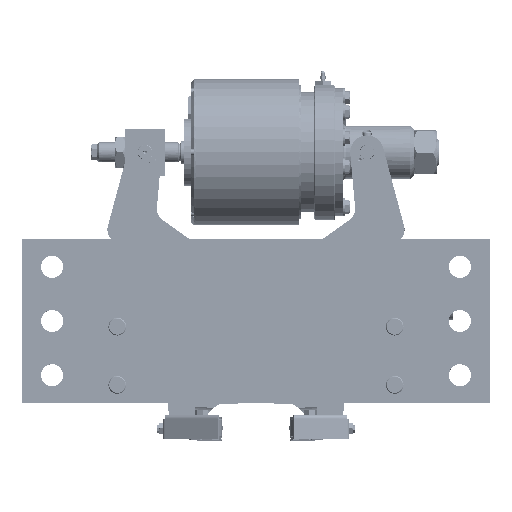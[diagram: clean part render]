
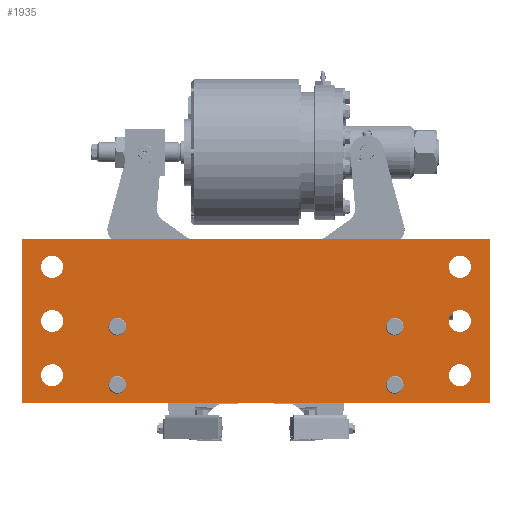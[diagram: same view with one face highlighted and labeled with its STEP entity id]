
A CAD part, top view. The second image highlights one B-rep face of the part: STEP entity #1935.
In plain terms, the highlighted planar face has unit normal (0, 0, 1).
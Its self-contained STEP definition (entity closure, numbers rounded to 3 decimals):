
#578=DIRECTION('',(-1.,0.,0.));
#579=VECTOR('',#578,700.);
#580=CARTESIAN_POINT('',(350.,0.,60.));
#581=LINE('',#580,#579);
#690=DIRECTION('',(1.,0.,0.));
#691=VECTOR('',#690,700.);
#692=CARTESIAN_POINT('',(-350.,245.,60.));
#693=LINE('',#692,#691);
#768=DIRECTION('',(0.,-1.,0.));
#769=VECTOR('',#768,245.);
#770=CARTESIAN_POINT('',(350.,245.,60.));
#771=LINE('',#770,#769);
#782=CARTESIAN_POINT('',(207.5,27.,60.));
#783=DIRECTION('',(0.,0.,-1.));
#784=DIRECTION('',(-1.,0.,0.));
#785=AXIS2_PLACEMENT_3D('',#782,#783,#784);
#790=CARTESIAN_POINT('',(207.5,27.,60.));
#791=DIRECTION('',(0.,0.,-1.));
#792=DIRECTION('',(1.,0.,0.));
#793=AXIS2_PLACEMENT_3D('',#790,#791,#792);
#798=CARTESIAN_POINT('',(207.5,114.,60.));
#799=DIRECTION('',(0.,0.,-1.));
#800=DIRECTION('',(-1.,0.,0.));
#801=AXIS2_PLACEMENT_3D('',#798,#799,#800);
#806=CARTESIAN_POINT('',(207.5,114.,60.));
#807=DIRECTION('',(0.,0.,-1.));
#808=DIRECTION('',(1.,0.,0.));
#809=AXIS2_PLACEMENT_3D('',#806,#807,#808);
#814=CARTESIAN_POINT('',(-207.5,27.,60.));
#815=DIRECTION('',(0.,0.,-1.));
#816=DIRECTION('',(-1.,0.,0.));
#817=AXIS2_PLACEMENT_3D('',#814,#815,#816);
#822=CARTESIAN_POINT('',(-207.5,27.,60.));
#823=DIRECTION('',(0.,0.,-1.));
#824=DIRECTION('',(1.,0.,0.));
#825=AXIS2_PLACEMENT_3D('',#822,#823,#824);
#830=CARTESIAN_POINT('',(-207.5,114.,60.));
#831=DIRECTION('',(0.,0.,-1.));
#832=DIRECTION('',(-1.,0.,0.));
#833=AXIS2_PLACEMENT_3D('',#830,#831,#832);
#838=CARTESIAN_POINT('',(-207.5,114.,60.));
#839=DIRECTION('',(0.,0.,-1.));
#840=DIRECTION('',(1.,0.,0.));
#841=AXIS2_PLACEMENT_3D('',#838,#839,#840);
#846=CARTESIAN_POINT('',(305.,41.5,60.));
#847=DIRECTION('',(0.,0.,-1.));
#848=DIRECTION('',(1.,0.,0.));
#849=AXIS2_PLACEMENT_3D('',#846,#847,#848);
#854=CARTESIAN_POINT('',(305.,41.5,60.));
#855=DIRECTION('',(0.,0.,-1.));
#856=DIRECTION('',(-1.,0.,0.));
#857=AXIS2_PLACEMENT_3D('',#854,#855,#856);
#862=CARTESIAN_POINT('',(-305.,41.5,60.));
#863=DIRECTION('',(0.,0.,-1.));
#864=DIRECTION('',(1.,0.,0.));
#865=AXIS2_PLACEMENT_3D('',#862,#863,#864);
#870=CARTESIAN_POINT('',(-305.,41.5,60.));
#871=DIRECTION('',(0.,0.,-1.));
#872=DIRECTION('',(-1.,0.,0.));
#873=AXIS2_PLACEMENT_3D('',#870,#871,#872);
#878=CARTESIAN_POINT('',(-305.,122.5,60.));
#879=DIRECTION('',(0.,0.,-1.));
#880=DIRECTION('',(1.,0.,0.));
#881=AXIS2_PLACEMENT_3D('',#878,#879,#880);
#886=CARTESIAN_POINT('',(-305.,122.5,60.));
#887=DIRECTION('',(0.,0.,-1.));
#888=DIRECTION('',(-1.,0.,0.));
#889=AXIS2_PLACEMENT_3D('',#886,#887,#888);
#894=CARTESIAN_POINT('',(305.,122.5,60.));
#895=DIRECTION('',(0.,0.,-1.));
#896=DIRECTION('',(1.,0.,0.));
#897=AXIS2_PLACEMENT_3D('',#894,#895,#896);
#902=CARTESIAN_POINT('',(305.,122.5,60.));
#903=DIRECTION('',(0.,0.,-1.));
#904=DIRECTION('',(-1.,0.,0.));
#905=AXIS2_PLACEMENT_3D('',#902,#903,#904);
#910=CARTESIAN_POINT('',(-305.,203.5,60.));
#911=DIRECTION('',(0.,0.,-1.));
#912=DIRECTION('',(1.,0.,0.));
#913=AXIS2_PLACEMENT_3D('',#910,#911,#912);
#918=CARTESIAN_POINT('',(-305.,203.5,60.));
#919=DIRECTION('',(0.,0.,-1.));
#920=DIRECTION('',(-1.,0.,0.));
#921=AXIS2_PLACEMENT_3D('',#918,#919,#920);
#926=CARTESIAN_POINT('',(305.,203.5,60.));
#927=DIRECTION('',(0.,0.,-1.));
#928=DIRECTION('',(1.,0.,0.));
#929=AXIS2_PLACEMENT_3D('',#926,#927,#928);
#934=CARTESIAN_POINT('',(305.,203.5,60.));
#935=DIRECTION('',(0.,0.,-1.));
#936=DIRECTION('',(-1.,0.,0.));
#937=AXIS2_PLACEMENT_3D('',#934,#935,#936);
#942=DIRECTION('',(0.,1.,0.));
#943=VECTOR('',#942,245.);
#944=CARTESIAN_POINT('',(-350.,0.,60.));
#945=LINE('',#944,#943);
#1364=CARTESIAN_POINT('',(194.25,114.,60.));
#1365=CARTESIAN_POINT('',(220.75,114.,60.));
#1366=VERTEX_POINT('',#1364);
#1367=VERTEX_POINT('',#1365);
#1376=CARTESIAN_POINT('',(-220.75,27.,60.));
#1377=CARTESIAN_POINT('',(-194.25,27.,60.));
#1378=VERTEX_POINT('',#1376);
#1379=VERTEX_POINT('',#1377);
#1380=CARTESIAN_POINT('',(-350.,245.,60.));
#1381=CARTESIAN_POINT('',(350.,245.,60.));
#1382=VERTEX_POINT('',#1380);
#1383=VERTEX_POINT('',#1381);
#1404=CARTESIAN_POINT('',(-288.5,41.5,60.));
#1405=CARTESIAN_POINT('',(-321.5,41.5,60.));
#1406=VERTEX_POINT('',#1404);
#1407=VERTEX_POINT('',#1405);
#1424=CARTESIAN_POINT('',(288.5,203.5,60.));
#1425=CARTESIAN_POINT('',(321.5,203.5,60.));
#1426=VERTEX_POINT('',#1424);
#1427=VERTEX_POINT('',#1425);
#1428=CARTESIAN_POINT('',(321.5,41.5,60.));
#1429=VERTEX_POINT('',#1428);
#1430=CARTESIAN_POINT('',(-220.75,114.,60.));
#1431=CARTESIAN_POINT('',(-194.25,114.,60.));
#1432=VERTEX_POINT('',#1430);
#1433=VERTEX_POINT('',#1431);
#1438=CARTESIAN_POINT('',(288.5,122.5,60.));
#1439=CARTESIAN_POINT('',(321.5,122.5,60.));
#1440=VERTEX_POINT('',#1438);
#1441=VERTEX_POINT('',#1439);
#1452=CARTESIAN_POINT('',(288.5,41.5,60.));
#1453=VERTEX_POINT('',#1452);
#1455=CARTESIAN_POINT('',(220.75,27.,60.));
#1457=VERTEX_POINT('',#1455);
#1460=CARTESIAN_POINT('',(-321.5,203.5,60.));
#1461=CARTESIAN_POINT('',(-288.5,203.5,60.));
#1462=VERTEX_POINT('',#1460);
#1463=VERTEX_POINT('',#1461);
#1466=CARTESIAN_POINT('',(-288.5,122.5,60.));
#1467=CARTESIAN_POINT('',(-321.5,122.5,60.));
#1468=VERTEX_POINT('',#1466);
#1469=VERTEX_POINT('',#1467);
#1520=CARTESIAN_POINT('',(350.,0.,60.));
#1521=VERTEX_POINT('',#1520);
#1526=CARTESIAN_POINT('',(194.25,27.,60.));
#1527=VERTEX_POINT('',#1526);
#1540=CARTESIAN_POINT('',(-350.,0.,60.));
#1541=VERTEX_POINT('',#1540);
#1863=CARTESIAN_POINT('',(0.,0.,60.));
#1864=DIRECTION('',(0.,0.,1.));
#1865=DIRECTION('',(1.,0.,0.));
#1866=AXIS2_PLACEMENT_3D('',#1863,#1864,#1865);
#1867=PLANE('',#1866);
#1868=ORIENTED_EDGE('',*,*,#1857,.T.);
#1869=ORIENTED_EDGE('',*,*,#1755,.T.);
#1871=ORIENTED_EDGE('',*,*,#1870,.T.);
#1872=ORIENTED_EDGE('',*,*,#1814,.T.);
#1873=EDGE_LOOP('',(#1868,#1869,#1871,#1872));
#1874=FACE_OUTER_BOUND('',#1873,.F.);
#1876=ORIENTED_EDGE('',*,*,#1875,.F.);
#1878=ORIENTED_EDGE('',*,*,#1877,.F.);
#1879=EDGE_LOOP('',(#1876,#1878));
#1880=FACE_BOUND('',#1879,.F.);
#1882=ORIENTED_EDGE('',*,*,#1881,.F.);
#1884=ORIENTED_EDGE('',*,*,#1883,.F.);
#1885=EDGE_LOOP('',(#1882,#1884));
#1886=FACE_BOUND('',#1885,.F.);
#1888=ORIENTED_EDGE('',*,*,#1887,.F.);
#1890=ORIENTED_EDGE('',*,*,#1889,.F.);
#1891=EDGE_LOOP('',(#1888,#1890));
#1892=FACE_BOUND('',#1891,.F.);
#1894=ORIENTED_EDGE('',*,*,#1893,.F.);
#1896=ORIENTED_EDGE('',*,*,#1895,.F.);
#1897=EDGE_LOOP('',(#1894,#1896));
#1898=FACE_BOUND('',#1897,.F.);
#1900=ORIENTED_EDGE('',*,*,#1899,.F.);
#1902=ORIENTED_EDGE('',*,*,#1901,.F.);
#1903=EDGE_LOOP('',(#1900,#1902));
#1904=FACE_BOUND('',#1903,.F.);
#1906=ORIENTED_EDGE('',*,*,#1905,.F.);
#1908=ORIENTED_EDGE('',*,*,#1907,.F.);
#1909=EDGE_LOOP('',(#1906,#1908));
#1910=FACE_BOUND('',#1909,.F.);
#1912=ORIENTED_EDGE('',*,*,#1911,.F.);
#1914=ORIENTED_EDGE('',*,*,#1913,.F.);
#1915=EDGE_LOOP('',(#1912,#1914));
#1916=FACE_BOUND('',#1915,.F.);
#1918=ORIENTED_EDGE('',*,*,#1917,.F.);
#1920=ORIENTED_EDGE('',*,*,#1919,.F.);
#1921=EDGE_LOOP('',(#1918,#1920));
#1922=FACE_BOUND('',#1921,.F.);
#1924=ORIENTED_EDGE('',*,*,#1923,.F.);
#1926=ORIENTED_EDGE('',*,*,#1925,.F.);
#1927=EDGE_LOOP('',(#1924,#1926));
#1928=FACE_BOUND('',#1927,.F.);
#1930=ORIENTED_EDGE('',*,*,#1929,.F.);
#1932=ORIENTED_EDGE('',*,*,#1931,.F.);
#1933=EDGE_LOOP('',(#1930,#1932));
#1934=FACE_BOUND('',#1933,.F.);
#1935=ADVANCED_FACE('',(#1874,#1880,#1886,#1892,#1898,#1904,#1910,#1916,#1922,
#1928,#1934),#1867,.T.);
#786=CIRCLE('',#785,13.25);
#794=CIRCLE('',#793,13.25);
#802=CIRCLE('',#801,13.25);
#810=CIRCLE('',#809,13.25);
#818=CIRCLE('',#817,13.25);
#826=CIRCLE('',#825,13.25);
#834=CIRCLE('',#833,13.25);
#842=CIRCLE('',#841,13.25);
#850=CIRCLE('',#849,16.5);
#858=CIRCLE('',#857,16.5);
#866=CIRCLE('',#865,16.5);
#874=CIRCLE('',#873,16.5);
#882=CIRCLE('',#881,16.5);
#890=CIRCLE('',#889,16.5);
#898=CIRCLE('',#897,16.5);
#906=CIRCLE('',#905,16.5);
#914=CIRCLE('',#913,16.5);
#922=CIRCLE('',#921,16.5);
#930=CIRCLE('',#929,16.5);
#938=CIRCLE('',#937,16.5);
#1755=EDGE_CURVE('',#1521,#1541,#581,.T.);
#1814=EDGE_CURVE('',#1382,#1383,#693,.T.);
#1857=EDGE_CURVE('',#1383,#1521,#771,.T.);
#1870=EDGE_CURVE('',#1541,#1382,#945,.T.);
#1875=EDGE_CURVE('',#1527,#1457,#786,.T.);
#1877=EDGE_CURVE('',#1457,#1527,#794,.T.);
#1881=EDGE_CURVE('',#1366,#1367,#802,.T.);
#1883=EDGE_CURVE('',#1367,#1366,#810,.T.);
#1887=EDGE_CURVE('',#1378,#1379,#818,.T.);
#1889=EDGE_CURVE('',#1379,#1378,#826,.T.);
#1893=EDGE_CURVE('',#1432,#1433,#834,.T.);
#1895=EDGE_CURVE('',#1433,#1432,#842,.T.);
#1899=EDGE_CURVE('',#1429,#1453,#850,.T.);
#1901=EDGE_CURVE('',#1453,#1429,#858,.T.);
#1905=EDGE_CURVE('',#1406,#1407,#866,.T.);
#1907=EDGE_CURVE('',#1407,#1406,#874,.T.);
#1911=EDGE_CURVE('',#1468,#1469,#882,.T.);
#1913=EDGE_CURVE('',#1469,#1468,#890,.T.);
#1917=EDGE_CURVE('',#1441,#1440,#898,.T.);
#1919=EDGE_CURVE('',#1440,#1441,#906,.T.);
#1923=EDGE_CURVE('',#1463,#1462,#914,.T.);
#1925=EDGE_CURVE('',#1462,#1463,#922,.T.);
#1929=EDGE_CURVE('',#1427,#1426,#930,.T.);
#1931=EDGE_CURVE('',#1426,#1427,#938,.T.);
